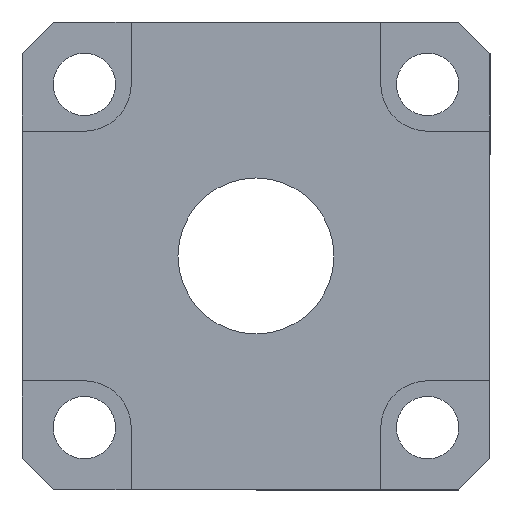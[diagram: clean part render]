
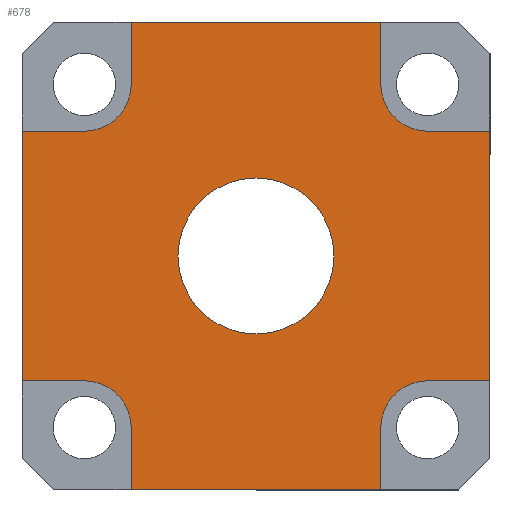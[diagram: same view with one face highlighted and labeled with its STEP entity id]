
A CAD part, front view. The second image highlights one B-rep face of the part: STEP entity #678.
In plain terms, the highlighted planar face has unit normal (0, -1, 0).
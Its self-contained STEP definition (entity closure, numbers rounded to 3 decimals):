
#5 = CARTESIAN_POINT ( 'NONE',  ( -11., 0., 8. ) ) ;
#22 = DIRECTION ( 'NONE',  ( 0., 0., 1. ) ) ;
#23 = ORIENTED_EDGE ( 'NONE', *, *, #1192, .F. ) ;
#25 = VERTEX_POINT ( 'NONE', #236 ) ;
#41 = EDGE_CURVE ( 'NONE', #25, #555, #410, .T. ) ;
#43 = DIRECTION ( 'NONE',  ( 0., 0., 1. ) ) ;
#48 = ORIENTED_EDGE ( 'NONE', *, *, #1151, .F. ) ;
#64 = VERTEX_POINT ( 'NONE', #610 ) ;
#72 = VERTEX_POINT ( 'NONE', #1191 ) ;
#81 = CARTESIAN_POINT ( 'NONE',  ( 8., 0., -11. ) ) ;
#93 = LINE ( 'NONE', #875, #980 ) ;
#94 = DIRECTION ( 'NONE',  ( 0., -1., 0. ) ) ;
#95 = VECTOR ( 'NONE', #915, 1000. ) ;
#119 = ORIENTED_EDGE ( 'NONE', *, *, #232, .F. ) ;
#120 = CARTESIAN_POINT ( 'NONE',  ( 8., 0., 11. ) ) ;
#121 = DIRECTION ( 'NONE',  ( 0., 0., -1. ) ) ;
#122 = VERTEX_POINT ( 'NONE', #832 ) ;
#127 = ORIENTED_EDGE ( 'NONE', *, *, #41, .F. ) ;
#138 = LINE ( 'NONE', #897, #1150 ) ;
#146 = DIRECTION ( 'NONE',  ( 0., 0., -1. ) ) ;
#170 = LINE ( 'NONE', #1193, #1161 ) ;
#173 = CARTESIAN_POINT ( 'NONE',  ( -15., 0., 8. ) ) ;
#191 = CIRCLE ( 'NONE', #305, 3. ) ;
#208 = VECTOR ( 'NONE', #299, 1000. ) ;
#212 = CARTESIAN_POINT ( 'NONE',  ( -11., 0., -11. ) ) ;
#216 = DIRECTION ( 'NONE',  ( 0., 0., 1. ) ) ;
#218 = EDGE_CURVE ( 'NONE', #1023, #669, #502, .T. ) ;
#222 = FACE_BOUND ( 'NONE', #238, .T. ) ;
#232 = EDGE_CURVE ( 'NONE', #1204, #1004, #885, .T. ) ;
#236 = CARTESIAN_POINT ( 'NONE',  ( 8., 0., 15. ) ) ;
#238 = EDGE_LOOP ( 'NONE', ( #1162, #119 ) ) ;
#251 = LINE ( 'NONE', #534, #95 ) ;
#261 = DIRECTION ( 'NONE',  ( -1., 0., 0. ) ) ;
#265 = ORIENTED_EDGE ( 'NONE', *, *, #749, .F. ) ;
#269 = ORIENTED_EDGE ( 'NONE', *, *, #514, .F. ) ;
#275 = CARTESIAN_POINT ( 'NONE',  ( -8., 0., 15. ) ) ;
#296 = EDGE_CURVE ( 'NONE', #555, #64, #1096, .T. ) ;
#299 = DIRECTION ( 'NONE',  ( 0., 0., -1. ) ) ;
#300 = DIRECTION ( 'NONE',  ( 0., 0., -1. ) ) ;
#305 = AXIS2_PLACEMENT_3D ( 'NONE', #212, #1079, #592 ) ;
#319 = VECTOR ( 'NONE', #43, 1000. ) ;
#367 = VERTEX_POINT ( 'NONE', #1024 ) ;
#377 = CARTESIAN_POINT ( 'NONE',  ( -11., 0., 11. ) ) ;
#386 = VECTOR ( 'NONE', #1139, 1000. ) ;
#388 = VERTEX_POINT ( 'NONE', #81 ) ;
#395 = VECTOR ( 'NONE', #261, 1000. ) ;
#399 = ORIENTED_EDGE ( 'NONE', *, *, #218, .F. ) ;
#402 = EDGE_CURVE ( 'NONE', #679, #388, #923, .T. ) ;
#405 = PLANE ( 'NONE',  #873 ) ;
#410 = LINE ( 'NONE', #792, #461 ) ;
#412 = DIRECTION ( 'NONE',  ( 0., -1., 0. ) ) ;
#413 = CARTESIAN_POINT ( 'NONE',  ( 0., 0., 0. ) ) ;
#422 = VERTEX_POINT ( 'NONE', #173 ) ;
#427 = DIRECTION ( 'NONE',  ( 0., 0., -1. ) ) ;
#449 = LINE ( 'NONE', #275, #1127 ) ;
#450 = ORIENTED_EDGE ( 'NONE', *, *, #570, .F. ) ;
#461 = VECTOR ( 'NONE', #427, 1000. ) ;
#466 = LINE ( 'NONE', #779, #766 ) ;
#467 = CARTESIAN_POINT ( 'NONE',  ( -11., 0., -8. ) ) ;
#490 = DIRECTION ( 'NONE',  ( -1., 0., 0. ) ) ;
#495 = CARTESIAN_POINT ( 'NONE',  ( 0., 0., 0. ) ) ;
#502 = LINE ( 'NONE', #705, #319 ) ;
#511 = CARTESIAN_POINT ( 'NONE',  ( -8., 0., -15. ) ) ;
#514 = EDGE_CURVE ( 'NONE', #388, #722, #879, .T. ) ;
#534 = CARTESIAN_POINT ( 'NONE',  ( 11., 0., 8. ) ) ;
#537 = VERTEX_POINT ( 'NONE', #944 ) ;
#541 = DIRECTION ( 'NONE',  ( 0., 0., 1. ) ) ;
#544 = LINE ( 'NONE', #467, #395 ) ;
#552 = ORIENTED_EDGE ( 'NONE', *, *, #580, .F. ) ;
#554 = CARTESIAN_POINT ( 'NONE',  ( 8., 0., -15. ) ) ;
#555 = VERTEX_POINT ( 'NONE', #120 ) ;
#560 = VERTEX_POINT ( 'NONE', #764 ) ;
#564 = EDGE_CURVE ( 'NONE', #367, #422, #93, .T. ) ;
#570 = EDGE_CURVE ( 'NONE', #722, #1023, #466, .T. ) ;
#580 = EDGE_CURVE ( 'NONE', #727, #25, #857, .T. ) ;
#590 = DIRECTION ( 'NONE',  ( 0., -1., 0. ) ) ;
#592 = DIRECTION ( 'NONE',  ( 0., 0., -1. ) ) ;
#610 = CARTESIAN_POINT ( 'NONE',  ( 11., 0., 8. ) ) ;
#617 = EDGE_CURVE ( 'NONE', #669, #72, #191, .T. ) ;
#657 = ORIENTED_EDGE ( 'NONE', *, *, #296, .F. ) ;
#669 = VERTEX_POINT ( 'NONE', #1066 ) ;
#678 = ADVANCED_FACE ( 'NONE', ( #222, #783 ), #405, .F. ) ;
#679 = VERTEX_POINT ( 'NONE', #890 ) ;
#691 = DIRECTION ( 'NONE',  ( 0., 0., -1. ) ) ;
#693 = CARTESIAN_POINT ( 'NONE',  ( 0., 0., -5. ) ) ;
#703 = CARTESIAN_POINT ( 'NONE',  ( 0., 0., 0. ) ) ;
#705 = CARTESIAN_POINT ( 'NONE',  ( -8., 0., -15. ) ) ;
#714 = EDGE_CURVE ( 'NONE', #64, #537, #251, .T. ) ;
#721 = AXIS2_PLACEMENT_3D ( 'NONE', #978, #412, #146 ) ;
#722 = VERTEX_POINT ( 'NONE', #554 ) ;
#727 = VERTEX_POINT ( 'NONE', #1091 ) ;
#735 = DIRECTION ( 'NONE',  ( 0., -1., 0. ) ) ;
#749 = EDGE_CURVE ( 'NONE', #560, #679, #170, .T. ) ;
#764 = CARTESIAN_POINT ( 'NONE',  ( 15., 0., -8. ) ) ;
#766 = VECTOR ( 'NONE', #490, 1000. ) ;
#770 = AXIS2_PLACEMENT_3D ( 'NONE', #413, #590, #121 ) ;
#773 = ORIENTED_EDGE ( 'NONE', *, *, #617, .F. ) ;
#776 = AXIS2_PLACEMENT_3D ( 'NONE', #377, #94, #934 ) ;
#779 = CARTESIAN_POINT ( 'NONE',  ( -15., 0., -15. ) ) ;
#783 = FACE_OUTER_BOUND ( 'NONE', #1034, .T. ) ;
#792 = CARTESIAN_POINT ( 'NONE',  ( 8., 0., 15. ) ) ;
#821 = ORIENTED_EDGE ( 'NONE', *, *, #402, .F. ) ;
#832 = CARTESIAN_POINT ( 'NONE',  ( -8., 0., 11. ) ) ;
#834 = ORIENTED_EDGE ( 'NONE', *, *, #714, .F. ) ;
#857 = LINE ( 'NONE', #962, #386 ) ;
#865 = ORIENTED_EDGE ( 'NONE', *, *, #1057, .F. ) ;
#873 = AXIS2_PLACEMENT_3D ( 'NONE', #703, #1063, #216 ) ;
#875 = CARTESIAN_POINT ( 'NONE',  ( -15., 0., -15. ) ) ;
#876 = ORIENTED_EDGE ( 'NONE', *, *, #1101, .F. ) ;
#879 = LINE ( 'NONE', #1035, #208 ) ;
#885 = CIRCLE ( 'NONE', #979, 5. ) ;
#886 = LINE ( 'NONE', #966, #969 ) ;
#890 = CARTESIAN_POINT ( 'NONE',  ( 11., 0., -8. ) ) ;
#897 = CARTESIAN_POINT ( 'NONE',  ( -11., 0., 8. ) ) ;
#915 = DIRECTION ( 'NONE',  ( 1., 0., 0. ) ) ;
#917 = CARTESIAN_POINT ( 'NONE',  ( 11., 0., -11. ) ) ;
#923 = CIRCLE ( 'NONE', #1179, 3. ) ;
#934 = DIRECTION ( 'NONE',  ( 0., 0., 1. ) ) ;
#935 = CIRCLE ( 'NONE', #776, 3. ) ;
#944 = CARTESIAN_POINT ( 'NONE',  ( 15., 0., 8. ) ) ;
#951 = VERTEX_POINT ( 'NONE', #5 ) ;
#962 = CARTESIAN_POINT ( 'NONE',  ( -15., 0., 15. ) ) ;
#966 = CARTESIAN_POINT ( 'NONE',  ( 15., 0., -15. ) ) ;
#969 = VECTOR ( 'NONE', #300, 1000. ) ;
#978 = CARTESIAN_POINT ( 'NONE',  ( 11., 0., 11. ) ) ;
#979 = AXIS2_PLACEMENT_3D ( 'NONE', #495, #1067, #691 ) ;
#980 = VECTOR ( 'NONE', #22, 1000. ) ;
#986 = DIRECTION ( 'NONE',  ( 1., 0., 0. ) ) ;
#995 = ORIENTED_EDGE ( 'NONE', *, *, #1141, .F. ) ;
#1004 = VERTEX_POINT ( 'NONE', #693 ) ;
#1011 = EDGE_CURVE ( 'NONE', #1004, #1204, #1145, .T. ) ;
#1023 = VERTEX_POINT ( 'NONE', #511 ) ;
#1024 = CARTESIAN_POINT ( 'NONE',  ( -15., 0., -8. ) ) ;
#1034 = EDGE_LOOP ( 'NONE', ( #773, #399, #450, #269, #821, #265, #876, #834, #657, #127, #552, #23, #995, #865, #1099, #48 ) ) ;
#1035 = CARTESIAN_POINT ( 'NONE',  ( 8., 0., -15. ) ) ;
#1057 = EDGE_CURVE ( 'NONE', #422, #951, #138, .T. ) ;
#1063 = DIRECTION ( 'NONE',  ( 0., 1., 0. ) ) ;
#1066 = CARTESIAN_POINT ( 'NONE',  ( -8., 0., -11. ) ) ;
#1067 = DIRECTION ( 'NONE',  ( 0., -1., 0. ) ) ;
#1079 = DIRECTION ( 'NONE',  ( 0., -1., 0. ) ) ;
#1091 = CARTESIAN_POINT ( 'NONE',  ( -8., 0., 15. ) ) ;
#1096 = CIRCLE ( 'NONE', #721, 3. ) ;
#1099 = ORIENTED_EDGE ( 'NONE', *, *, #564, .F. ) ;
#1101 = EDGE_CURVE ( 'NONE', #537, #560, #886, .T. ) ;
#1127 = VECTOR ( 'NONE', #1219, 1000. ) ;
#1135 = CARTESIAN_POINT ( 'NONE',  ( 0., 0., 5. ) ) ;
#1139 = DIRECTION ( 'NONE',  ( 1., 0., 0. ) ) ;
#1141 = EDGE_CURVE ( 'NONE', #951, #122, #935, .T. ) ;
#1145 = CIRCLE ( 'NONE', #770, 5. ) ;
#1150 = VECTOR ( 'NONE', #986, 1000. ) ;
#1151 = EDGE_CURVE ( 'NONE', #72, #367, #544, .T. ) ;
#1161 = VECTOR ( 'NONE', #1198, 1000. ) ;
#1162 = ORIENTED_EDGE ( 'NONE', *, *, #1011, .F. ) ;
#1179 = AXIS2_PLACEMENT_3D ( 'NONE', #917, #735, #541 ) ;
#1191 = CARTESIAN_POINT ( 'NONE',  ( -11., 0., -8. ) ) ;
#1192 = EDGE_CURVE ( 'NONE', #122, #727, #449, .T. ) ;
#1193 = CARTESIAN_POINT ( 'NONE',  ( 11., 0., -8. ) ) ;
#1198 = DIRECTION ( 'NONE',  ( -1., 0., 0. ) ) ;
#1204 = VERTEX_POINT ( 'NONE', #1135 ) ;
#1219 = DIRECTION ( 'NONE',  ( 0., 0., 1. ) ) ;
